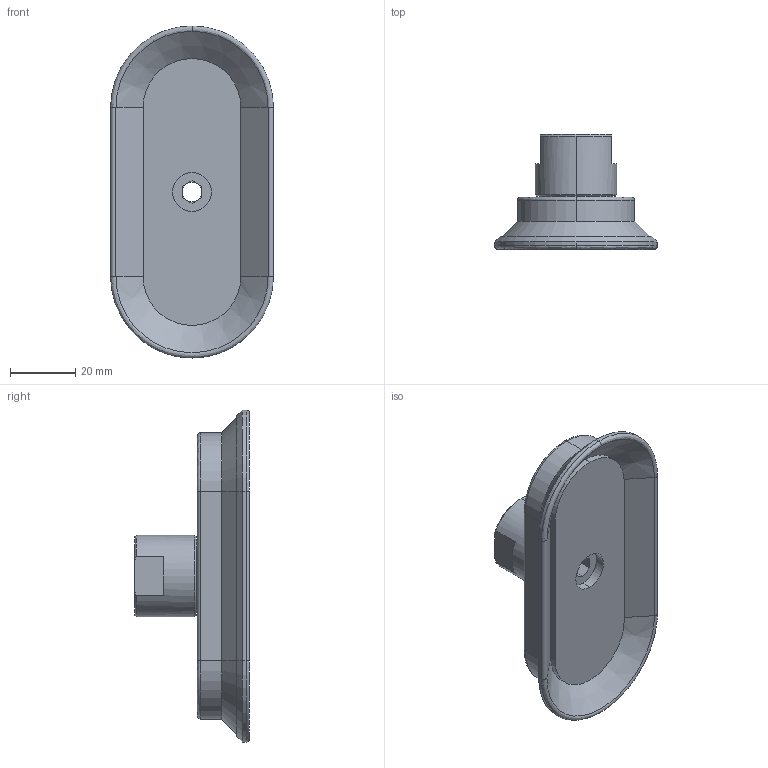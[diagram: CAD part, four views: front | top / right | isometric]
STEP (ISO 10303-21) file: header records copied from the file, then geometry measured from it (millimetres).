
FILE_DESCRIPTION (( 'STEP AP214' ), '1' );
FILE_NAME ('VOFC50100.STEP', '2019-11-26T01:01:33', ( '微软用户' ), ( '微软中国' ), 'SwSTEP 2.0', 'SolidWorks 2016', '' );
FILE_SCHEMA (( 'AUTOMOTIVE_DESIGN' ));
Length unit declared in the file: millimetre
Products named in the file (1): VOFC50100
Bounding box: 50 x 35.3 x 102 mm (x, y, z)
Volume: 43514.7 mm3; surface area: 16492.6 mm2
Topology: 2 solids, 2 shells, 141 faces, 329 edges, 203 vertices
Faces by surface type: plane 71, cylinder 27, bspline 23, cone 20
Entity records: 7517 total; most frequent: CARTESIAN_POINT 2792, ORIENTED_EDGE 658, DIRECTION 612, EDGE_CURVE 329, AXIS2_PLACEMENT_3D 205, VERTEX_POINT 203, LINE 202, VECTOR 202
